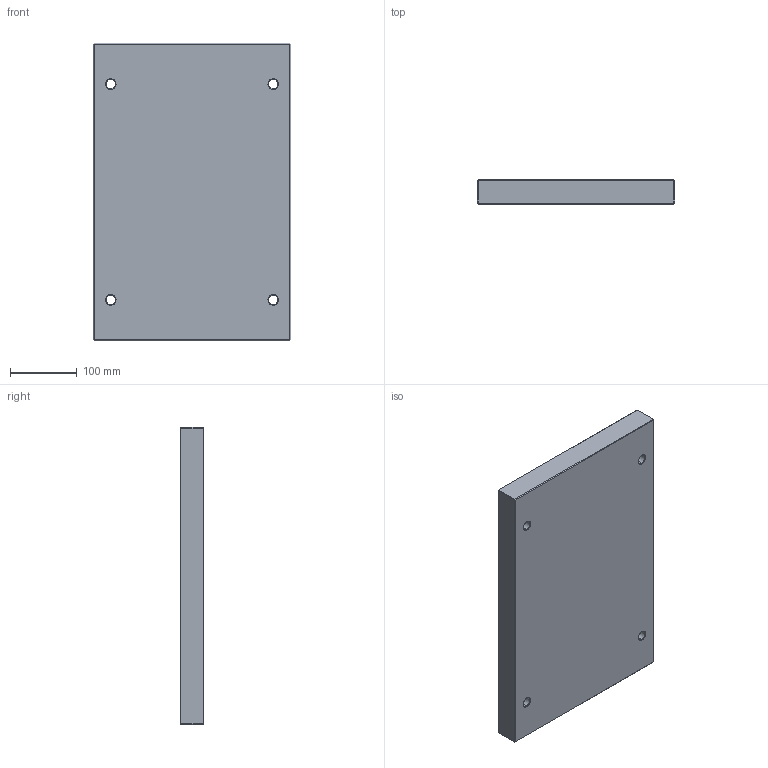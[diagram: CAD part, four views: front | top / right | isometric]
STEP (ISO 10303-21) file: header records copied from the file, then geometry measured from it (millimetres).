
FILE_DESCRIPTION (( 'STEP AP214' ), '1' );
FILE_NAME ('PS-296X446X36.STEP', '2020-05-12T15:35:26', ( 'August' ), ( '' ), 'SwSTEP 2.0', 'SolidWorks 2018', '' );
FILE_SCHEMA (( 'AUTOMOTIVE_DESIGN' ));
Length unit declared in the file: millimetre
Products named in the file (1): PS-296X446X36
Bounding box: 296 x 36 x 446 mm (x, y, z)
Volume: 4719663.9 mm3; surface area: 321547.7 mm2
Topology: 1 solids, 1 shells, 62 faces, 128 edges, 72 vertices
Faces by surface type: plane 30, cone 16, cylinder 16
Entity records: 1650 total; most frequent: DIRECTION 302, CARTESIAN_POINT 263, ORIENTED_EDGE 256, EDGE_CURVE 128, AXIS2_PLACEMENT_3D 111, LINE 80, VECTOR 80, EDGE_LOOP 74
